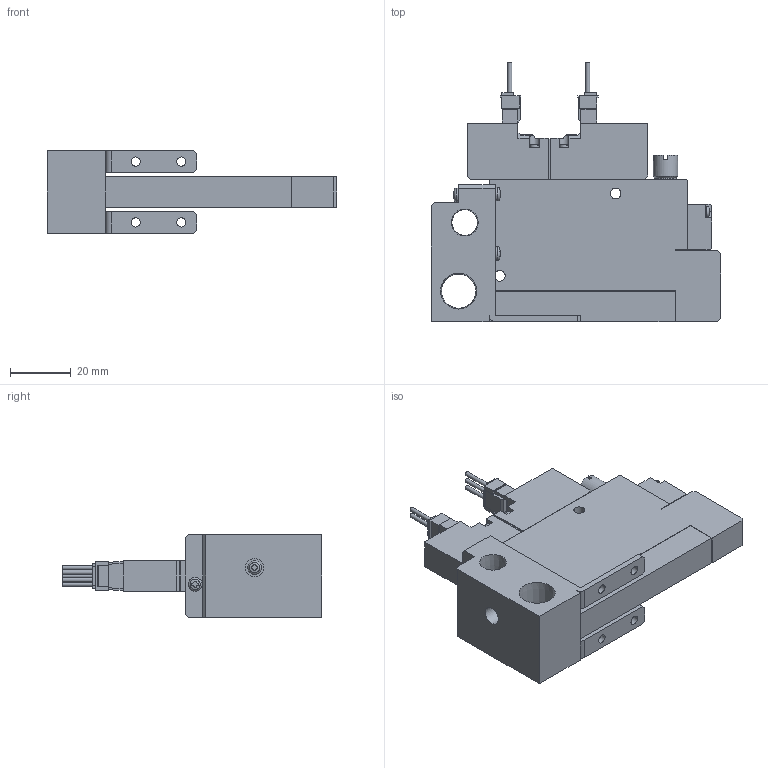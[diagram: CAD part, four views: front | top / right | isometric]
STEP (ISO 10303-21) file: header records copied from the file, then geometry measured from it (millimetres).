
FILE_DESCRIPTION(('STEP AP203'),'1');
FILE_NAME('ZZC5WC101_3D.stp','2024-09-04T06:23:58',(' '),(' '),'Spatial InterOp 3D',' ',' ');
FILE_SCHEMA(('CONFIG_CONTROL_DESIGN'));
Length unit declared in the file: millimetre
Products named in the file (5): BSC1M※※ZZC5WC101; Solenoid valve W; Pressure Sensor ZZ; Unit-C; BaseMC10R
Assembly tree (4 placements, depth 2):
  BSC1M※※ZZC5WC101
    Solenoid valve W
    Pressure Sensor ZZ
    Unit-C
    BaseMC10R
Bounding box: 95 x 85.05 x 27 mm (x, y, z)
Volume: 63421.9 mm3; surface area: 23391.8 mm2
Topology: 4 solids, 4 shells, 433 faces, 1158 edges, 764 vertices
Faces by surface type: plane 315, cylinder 91, cone 11, sphere 8, torus 8
Full cylindrical faces by diameter (mm): 1.4 x5, 2.5 x2, 3 x8, 3.5 x6, 4 x1, 4.134 x2, 4.5 x6, 5.5 x1, 6 x1, 7 x2, 8 x1, 8.422 x1, 11.233 x1
Entity records: 13628 total; most frequent: CARTESIAN_POINT 2757, ORIENTED_EDGE 2146, DIRECTION 2145, EDGE_CURVE 1073, LINE 807, VECTOR 807, VERTEX_POINT 744, AXIS2_PLACEMENT_3D 669
